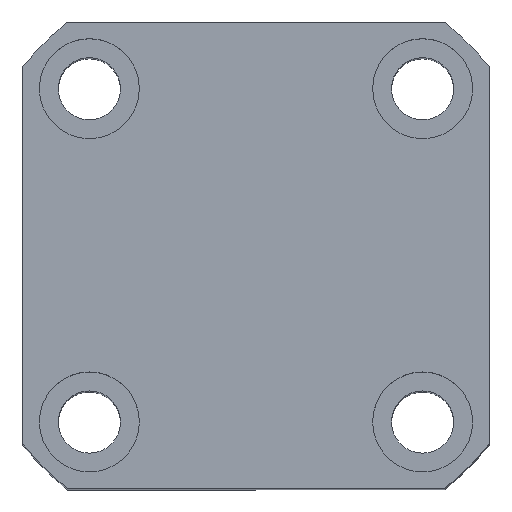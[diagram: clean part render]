
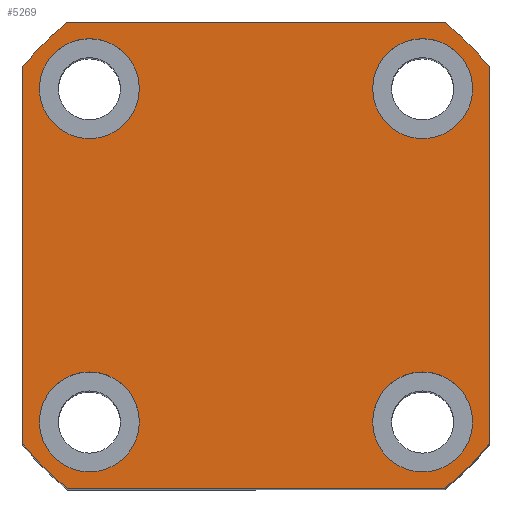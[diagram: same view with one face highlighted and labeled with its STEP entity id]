
A CAD part, top view. The second image highlights one B-rep face of the part: STEP entity #5269.
In plain terms, the highlighted planar face has unit normal (0, 0, 1).
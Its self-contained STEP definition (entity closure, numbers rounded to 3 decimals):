
#51 = ORIENTED_EDGE ( 'NONE', *, *, #10436, .T. ) ;
#282 = CARTESIAN_POINT ( 'NONE',  ( -19.5, -14.998, 73. ) ) ;
#284 = EDGE_CURVE ( 'NONE', #7692, #1595, #1342, .T. ) ;
#342 = DIRECTION ( 'NONE',  ( 0., 0., 1. ) ) ;
#347 = CARTESIAN_POINT ( 'NONE',  ( 21., 16.971, 73. ) ) ;
#504 = CIRCLE ( 'NONE', #5463, 27. ) ;
#716 = VERTEX_POINT ( 'NONE', #282 ) ;
#739 = CARTESIAN_POINT ( 'NONE',  ( 15., 15., 73. ) ) ;
#790 = CARTESIAN_POINT ( 'NONE',  ( -21., 16.971, 73. ) ) ;
#793 = FACE_BOUND ( 'NONE', #10477, .T. ) ;
#976 = CARTESIAN_POINT ( 'NONE',  ( 21., 21., 73. ) ) ;
#1031 = VERTEX_POINT ( 'NONE', #10057 ) ;
#1047 = DIRECTION ( 'NONE',  ( 1., 0., 0. ) ) ;
#1073 = VERTEX_POINT ( 'NONE', #5751 ) ;
#1259 = DIRECTION ( 'NONE',  ( 0., 0., 1. ) ) ;
#1342 = LINE ( 'NONE', #976, #3884 ) ;
#1391 = EDGE_LOOP ( 'NONE', ( #8349, #12328, #12313, #10003, #2421, #8471, #3283, #51 ) ) ;
#1543 = AXIS2_PLACEMENT_3D ( 'NONE', #6850, #342, #7918 ) ;
#1595 = VERTEX_POINT ( 'NONE', #347 ) ;
#1645 = PLANE ( 'NONE',  #12180 ) ;
#1723 = AXIS2_PLACEMENT_3D ( 'NONE', #11229, #4830, #12301 ) ;
#1751 = EDGE_CURVE ( 'NONE', #716, #5152, #5316, .T. ) ;
#1812 = CIRCLE ( 'NONE', #3534, 4.5 ) ;
#1828 = DIRECTION ( 'NONE',  ( 1., 0., 0. ) ) ;
#1939 = VERTEX_POINT ( 'NONE', #11549 ) ;
#2068 = CARTESIAN_POINT ( 'NONE',  ( 0., 0., 73. ) ) ;
#2111 = DIRECTION ( 'NONE',  ( 1., 0., 0. ) ) ;
#2293 = EDGE_CURVE ( 'NONE', #1595, #3255, #504, .T. ) ;
#2313 = CIRCLE ( 'NONE', #1543, 27. ) ;
#2413 = CARTESIAN_POINT ( 'NONE',  ( 10.5, -14.998, 73. ) ) ;
#2421 = ORIENTED_EDGE ( 'NONE', *, *, #5253, .T. ) ;
#2571 = LINE ( 'NONE', #8587, #5159 ) ;
#2687 = CARTESIAN_POINT ( 'NONE',  ( 0., 0., 73. ) ) ;
#2711 = CARTESIAN_POINT ( 'NONE',  ( -15., -14.998, 73. ) ) ;
#3020 = LINE ( 'NONE', #12224, #8432 ) ;
#3110 = EDGE_CURVE ( 'NONE', #3743, #13782, #11261, .T. ) ;
#3157 = DIRECTION ( 'NONE',  ( 1., 0., 0. ) ) ;
#3255 = VERTEX_POINT ( 'NONE', #3417 ) ;
#3283 = ORIENTED_EDGE ( 'NONE', *, *, #8309, .T. ) ;
#3409 = CARTESIAN_POINT ( 'NONE',  ( -10.5, -14.998, 73. ) ) ;
#3417 = CARTESIAN_POINT ( 'NONE',  ( 16.971, 21., 73. ) ) ;
#3534 = AXIS2_PLACEMENT_3D ( 'NONE', #12085, #5708, #13118 ) ;
#3567 = EDGE_CURVE ( 'NONE', #5152, #716, #10769, .T. ) ;
#3640 = ORIENTED_EDGE ( 'NONE', *, *, #7092, .F. ) ;
#3657 = FACE_BOUND ( 'NONE', #6876, .T. ) ;
#3743 = VERTEX_POINT ( 'NONE', #2413 ) ;
#3790 = DIRECTION ( 'NONE',  ( 1., 0., 0. ) ) ;
#3816 = DIRECTION ( 'NONE',  ( 1., 0., 0. ) ) ;
#3822 = DIRECTION ( 'NONE',  ( 0., 0., 1. ) ) ;
#3884 = VECTOR ( 'NONE', #4928, 1000. ) ;
#4020 = LINE ( 'NONE', #6864, #9754 ) ;
#4129 = DIRECTION ( 'NONE',  ( 0., 0., 1. ) ) ;
#4477 = CARTESIAN_POINT ( 'NONE',  ( -15., 15.002, 73. ) ) ;
#4626 = ORIENTED_EDGE ( 'NONE', *, *, #5231, .F. ) ;
#4830 = DIRECTION ( 'NONE',  ( 0., 0., 1. ) ) ;
#4839 = CARTESIAN_POINT ( 'NONE',  ( 0., 0., 73. ) ) ;
#4928 = DIRECTION ( 'NONE',  ( 0., 1., 0. ) ) ;
#5152 = VERTEX_POINT ( 'NONE', #3409 ) ;
#5159 = VECTOR ( 'NONE', #2111, 1000. ) ;
#5231 = EDGE_CURVE ( 'NONE', #13768, #5962, #1812, .T. ) ;
#5253 = EDGE_CURVE ( 'NONE', #8129, #1939, #4020, .T. ) ;
#5269 = ADVANCED_FACE ( 'NONE', ( #10073, #9423, #3657, #793, #11901 ), #1645, .T. ) ;
#5316 = CIRCLE ( 'NONE', #6708, 4.5 ) ;
#5463 = AXIS2_PLACEMENT_3D ( 'NONE', #2687, #10239, #3790 ) ;
#5471 = DIRECTION ( 'NONE',  ( 0., 0., 1. ) ) ;
#5572 = DIRECTION ( 'NONE',  ( 1., 0., 0. ) ) ;
#5614 = EDGE_CURVE ( 'NONE', #1939, #1031, #2313, .T. ) ;
#5708 = DIRECTION ( 'NONE',  ( 0., 0., 1. ) ) ;
#5751 = CARTESIAN_POINT ( 'NONE',  ( -16.971, 21., 73. ) ) ;
#5962 = VERTEX_POINT ( 'NONE', #6936 ) ;
#5979 = ORIENTED_EDGE ( 'NONE', *, *, #9630, .F. ) ;
#6035 = CARTESIAN_POINT ( 'NONE',  ( 21., -16.971, 73. ) ) ;
#6226 = CIRCLE ( 'NONE', #1723, 4.5 ) ;
#6401 = AXIS2_PLACEMENT_3D ( 'NONE', #4477, #11962, #5572 ) ;
#6708 = AXIS2_PLACEMENT_3D ( 'NONE', #2711, #10265, #3816 ) ;
#6850 = CARTESIAN_POINT ( 'NONE',  ( 0., 0., 73. ) ) ;
#6851 = AXIS2_PLACEMENT_3D ( 'NONE', #13864, #7520, #1047 ) ;
#6864 = CARTESIAN_POINT ( 'NONE',  ( -21., 21., 73. ) ) ;
#6876 = EDGE_LOOP ( 'NONE', ( #11497, #10337 ) ) ;
#6901 = DIRECTION ( 'NONE',  ( -1., 0., 0. ) ) ;
#6936 = CARTESIAN_POINT ( 'NONE',  ( 19.5, 15., 73. ) ) ;
#7092 = EDGE_CURVE ( 'NONE', #5962, #13768, #11525, .T. ) ;
#7194 = ORIENTED_EDGE ( 'NONE', *, *, #13867, .F. ) ;
#7448 = AXIS2_PLACEMENT_3D ( 'NONE', #739, #8305, #1828 ) ;
#7472 = VERTEX_POINT ( 'NONE', #12745 ) ;
#7520 = DIRECTION ( 'NONE',  ( 0., 0., 1. ) ) ;
#7692 = VERTEX_POINT ( 'NONE', #6035 ) ;
#7712 = AXIS2_PLACEMENT_3D ( 'NONE', #11870, #5471, #12896 ) ;
#7741 = CARTESIAN_POINT ( 'NONE',  ( 15., -14.998, 73. ) ) ;
#7917 = CIRCLE ( 'NONE', #6851, 27. ) ;
#7918 = DIRECTION ( 'NONE',  ( 1., 0., 0. ) ) ;
#7971 = EDGE_LOOP ( 'NONE', ( #12481, #10999 ) ) ;
#8129 = VERTEX_POINT ( 'NONE', #790 ) ;
#8202 = CARTESIAN_POINT ( 'NONE',  ( 16.971, -21., 73. ) ) ;
#8206 = EDGE_CURVE ( 'NONE', #1073, #8129, #8344, .T. ) ;
#8305 = DIRECTION ( 'NONE',  ( 0., 0., 1. ) ) ;
#8309 = EDGE_CURVE ( 'NONE', #1031, #12013, #2571, .T. ) ;
#8344 = CIRCLE ( 'NONE', #10069, 27. ) ;
#8349 = ORIENTED_EDGE ( 'NONE', *, *, #284, .T. ) ;
#8432 = VECTOR ( 'NONE', #6901, 1000. ) ;
#8471 = ORIENTED_EDGE ( 'NONE', *, *, #5614, .T. ) ;
#8587 = CARTESIAN_POINT ( 'NONE',  ( -21., -21., 73. ) ) ;
#8810 = DIRECTION ( 'NONE',  ( 1., 0., 0. ) ) ;
#8960 = CARTESIAN_POINT ( 'NONE',  ( -10.5, 15.002, 73. ) ) ;
#9260 = CIRCLE ( 'NONE', #10290, 4.5 ) ;
#9423 = FACE_BOUND ( 'NONE', #7971, .T. ) ;
#9614 = DIRECTION ( 'NONE',  ( 0., 0., 1. ) ) ;
#9630 = EDGE_CURVE ( 'NONE', #7472, #13180, #12474, .T. ) ;
#9754 = VECTOR ( 'NONE', #13203, 1000. ) ;
#9761 = CARTESIAN_POINT ( 'NONE',  ( 10.5, 15., 73. ) ) ;
#10003 = ORIENTED_EDGE ( 'NONE', *, *, #8206, .T. ) ;
#10057 = CARTESIAN_POINT ( 'NONE',  ( -16.971, -21., 73. ) ) ;
#10069 = AXIS2_PLACEMENT_3D ( 'NONE', #2068, #9614, #3157 ) ;
#10073 = FACE_BOUND ( 'NONE', #13750, .T. ) ;
#10239 = DIRECTION ( 'NONE',  ( 0., 0., 1. ) ) ;
#10265 = DIRECTION ( 'NONE',  ( 0., 0., 1. ) ) ;
#10290 = AXIS2_PLACEMENT_3D ( 'NONE', #7741, #1259, #8810 ) ;
#10337 = ORIENTED_EDGE ( 'NONE', *, *, #3110, .F. ) ;
#10436 = EDGE_CURVE ( 'NONE', #12013, #7692, #7917, .T. ) ;
#10477 = EDGE_LOOP ( 'NONE', ( #3640, #4626 ) ) ;
#10554 = CARTESIAN_POINT ( 'NONE',  ( 15., -14.998, 73. ) ) ;
#10769 = CIRCLE ( 'NONE', #7712, 4.5 ) ;
#10960 = EDGE_CURVE ( 'NONE', #3255, #1073, #3020, .T. ) ;
#10999 = ORIENTED_EDGE ( 'NONE', *, *, #1751, .F. ) ;
#11229 = CARTESIAN_POINT ( 'NONE',  ( -15., 15.002, 73. ) ) ;
#11261 = CIRCLE ( 'NONE', #13909, 4.5 ) ;
#11339 = DIRECTION ( 'NONE',  ( 1., 0., 0. ) ) ;
#11497 = ORIENTED_EDGE ( 'NONE', *, *, #11587, .F. ) ;
#11525 = CIRCLE ( 'NONE', #7448, 4.5 ) ;
#11549 = CARTESIAN_POINT ( 'NONE',  ( -21., -16.971, 73. ) ) ;
#11587 = EDGE_CURVE ( 'NONE', #13782, #3743, #9260, .T. ) ;
#11628 = DIRECTION ( 'NONE',  ( 1., 0., 0. ) ) ;
#11870 = CARTESIAN_POINT ( 'NONE',  ( -15., -14.998, 73. ) ) ;
#11891 = CARTESIAN_POINT ( 'NONE',  ( 19.5, -14.998, 73. ) ) ;
#11901 = FACE_OUTER_BOUND ( 'NONE', #1391, .T. ) ;
#11962 = DIRECTION ( 'NONE',  ( 0., 0., 1. ) ) ;
#12013 = VERTEX_POINT ( 'NONE', #8202 ) ;
#12085 = CARTESIAN_POINT ( 'NONE',  ( 15., 15., 73. ) ) ;
#12180 = AXIS2_PLACEMENT_3D ( 'NONE', #4839, #3822, #11339 ) ;
#12224 = CARTESIAN_POINT ( 'NONE',  ( -21., 21., 73. ) ) ;
#12301 = DIRECTION ( 'NONE',  ( 1., 0., 0. ) ) ;
#12313 = ORIENTED_EDGE ( 'NONE', *, *, #10960, .T. ) ;
#12328 = ORIENTED_EDGE ( 'NONE', *, *, #2293, .T. ) ;
#12474 = CIRCLE ( 'NONE', #6401, 4.5 ) ;
#12481 = ORIENTED_EDGE ( 'NONE', *, *, #3567, .F. ) ;
#12745 = CARTESIAN_POINT ( 'NONE',  ( -19.5, 15.002, 73. ) ) ;
#12896 = DIRECTION ( 'NONE',  ( 1., 0., 0. ) ) ;
#13118 = DIRECTION ( 'NONE',  ( 1., 0., 0. ) ) ;
#13180 = VERTEX_POINT ( 'NONE', #8960 ) ;
#13203 = DIRECTION ( 'NONE',  ( 0., -1., 0. ) ) ;
#13750 = EDGE_LOOP ( 'NONE', ( #7194, #5979 ) ) ;
#13768 = VERTEX_POINT ( 'NONE', #9761 ) ;
#13782 = VERTEX_POINT ( 'NONE', #11891 ) ;
#13864 = CARTESIAN_POINT ( 'NONE',  ( 0., 0., 73. ) ) ;
#13867 = EDGE_CURVE ( 'NONE', #13180, #7472, #6226, .T. ) ;
#13909 = AXIS2_PLACEMENT_3D ( 'NONE', #10554, #4129, #11628 ) ;
